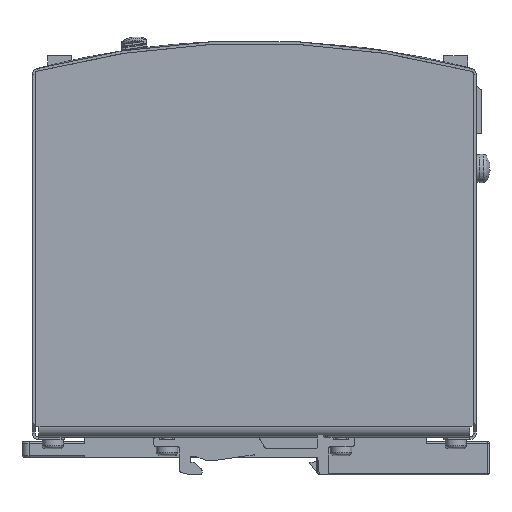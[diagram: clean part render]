
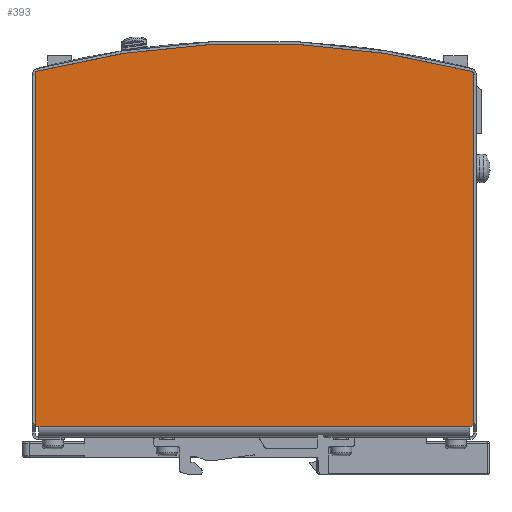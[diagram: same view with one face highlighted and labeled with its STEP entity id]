
A CAD part, left-side view. The second image highlights one B-rep face of the part: STEP entity #393.
In plain terms, the highlighted planar face has unit normal (-1, 0, 0).
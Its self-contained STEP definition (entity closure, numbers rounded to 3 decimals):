
#168=CARTESIAN_POINT('',(-10.,-92.3,3.));
#169=VERTEX_POINT('',#168);
#177=CARTESIAN_POINT('',(-10.,28.,3.));
#178=VERTEX_POINT('',#177);
#179=CARTESIAN_POINT('',(-10.,-92.3,3.));
#180=DIRECTION('',(0.0,1.0,0.0));
#181=VECTOR('',#180,120.3);
#182=LINE('',#179,#181);
#183=EDGE_CURVE('',#169,#178,#182,.T.);
#328=CARTESIAN_POINT('',(-10.,-45.974,39.476));
#329=DIRECTION('',(1.0,0.0,0.0));
#330=DIRECTION('',(0.0,0.0,-1.0));
#331=AXIS2_PLACEMENT_3D('',#328,#329,#330);
#332=PLANE('',#331);
#333=ORIENTED_EDGE('',*,*,#183,.F.);
#334=CARTESIAN_POINT('',(-10.,-93.3,3.));
#335=VERTEX_POINT('',#334);
#336=CARTESIAN_POINT('',(-10.,-93.3,3.));
#337=DIRECTION('',(0.0,1.0,0.0));
#338=VECTOR('',#337,1.);
#339=LINE('',#336,#338);
#340=EDGE_CURVE('',#335,#169,#339,.T.);
#341=ORIENTED_EDGE('',*,*,#340,.F.);
#342=CARTESIAN_POINT('',(-10.,-93.3,101.693));
#343=VERTEX_POINT('',#342);
#344=CARTESIAN_POINT('',(-10.,-93.3,101.693));
#345=DIRECTION('',(0.0,0.0,-1.0));
#346=VECTOR('',#345,98.693);
#347=LINE('',#344,#346);
#348=EDGE_CURVE('',#343,#335,#347,.T.);
#349=ORIENTED_EDGE('',*,*,#348,.F.);
#350=CARTESIAN_POINT('',(-10.,-92.927,102.177));
#351=VERTEX_POINT('',#350);
#352=CARTESIAN_POINT('',(-10.,-92.8,101.693));
#353=DIRECTION('',(1.0,0.0,0.0));
#354=DIRECTION('',(0.0,0.0,-1.0));
#355=AXIS2_PLACEMENT_3D('',#352,#353,#354);
#356=CIRCLE('',#355,0.5);
#357=EDGE_CURVE('',#351,#343,#356,.T.);
#358=ORIENTED_EDGE('',*,*,#357,.F.);
#359=CARTESIAN_POINT('',(-10.0,28.627,102.177));
#360=VERTEX_POINT('',#359);
#361=CARTESIAN_POINT('',(-10.0,-32.15,-130.0));
#362=DIRECTION('',(1.0,0.0,0.0));
#363=DIRECTION('',(0.0,0.0,-1.0));
#364=AXIS2_PLACEMENT_3D('',#361,#362,#363);
#365=CIRCLE('',#364,240.0);
#366=EDGE_CURVE('',#360,#351,#365,.T.);
#367=ORIENTED_EDGE('',*,*,#366,.F.);
#368=CARTESIAN_POINT('',(-10.0,29.,101.693));
#369=VERTEX_POINT('',#368);
#370=CARTESIAN_POINT('',(-10.0,28.5,101.693));
#371=DIRECTION('',(1.0,0.0,0.0));
#372=DIRECTION('',(0.0,0.0,-1.0));
#373=AXIS2_PLACEMENT_3D('',#370,#371,#372);
#374=CIRCLE('',#373,0.5);
#375=EDGE_CURVE('',#369,#360,#374,.T.);
#376=ORIENTED_EDGE('',*,*,#375,.F.);
#377=CARTESIAN_POINT('',(-10.,29.,3.));
#378=VERTEX_POINT('',#377);
#379=CARTESIAN_POINT('',(-10.,29.,3.));
#380=DIRECTION('',(0.0,0.0,1.0));
#381=VECTOR('',#380,98.693);
#382=LINE('',#379,#381);
#383=EDGE_CURVE('',#378,#369,#382,.T.);
#384=ORIENTED_EDGE('',*,*,#383,.F.);
#385=CARTESIAN_POINT('',(-10.,28.,3.));
#386=DIRECTION('',(0.0,1.0,0.0));
#387=VECTOR('',#386,1.);
#388=LINE('',#385,#387);
#389=EDGE_CURVE('',#178,#378,#388,.T.);
#390=ORIENTED_EDGE('',*,*,#389,.F.);
#391=EDGE_LOOP('',(#333,#341,#349,#358,#367,#376,#384,#390));
#392=FACE_OUTER_BOUND('',#391,.T.);
#393=ADVANCED_FACE('',(#392),#332,.F.);
